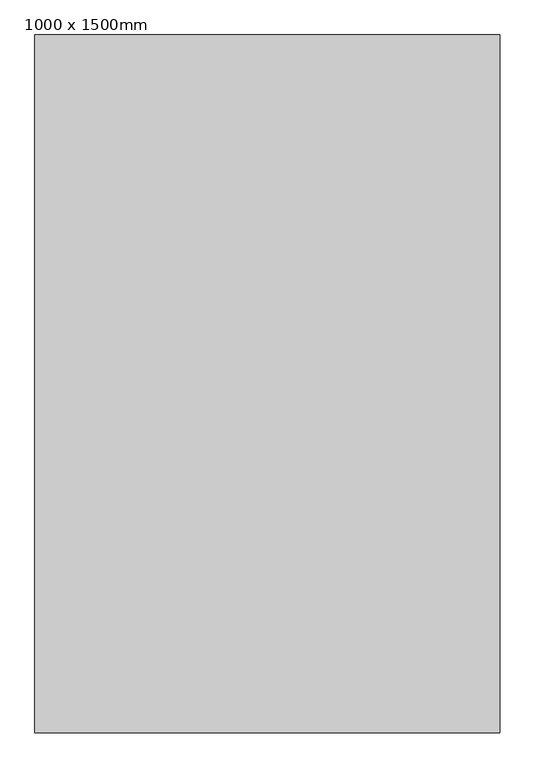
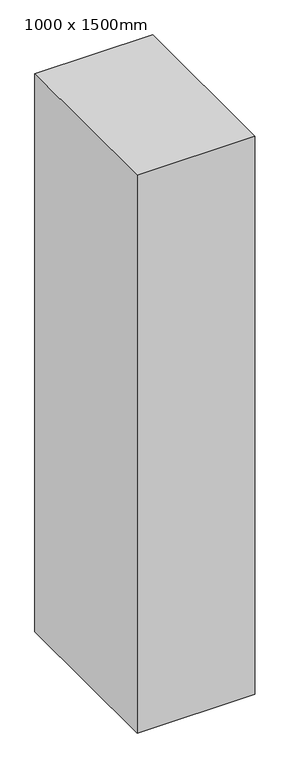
"""IFC4 building model written with IfcOpenShell, lengths in millimetres: column geometry, 混凝土 - 矩形 - 柱 : 1000 x 1500mm."""

import ifcopenshell
import ifcopenshell.guid

model = None  # the IFC model being written
_history = None  # IfcOwnerHistory: only IFC2X3 demands one
_inside = {}  # id of a spatial element -> (the spatial element, [elements in it])
_under = {}  # id of a project, library or spatial element -> (it, [spatial elements below it])
_declared = {}  # id of a project -> (the project, [libraries it declares])
_typed = {}  # id of a type object -> (the type object, [elements of that type])
_made_of = {}  # id of a material, layer set ... -> (it, [elements and type objects made of it])


def new_model(schema):
    """Start an empty IFC model of exactly this schema.

    Asked for "IFC4X3", IfcOpenShell would pick the latest addendum, in which some entities
    have other attributes; the version numbers below select the first issue.
    IFC2X3 requires an IfcOwnerHistory on every rooted entity: one is made here for all.
    """
    global model, _history
    if schema == "IFC4X3":
        model = ifcopenshell.file(schema_version=(4, 3, 0, 0))
    else:
        model = ifcopenshell.file(schema=schema)
    _inside.clear()
    _under.clear()
    _declared.clear()
    _typed.clear()
    _made_of.clear()
    _history = None
    if model.schema == "IFC2X3":
        org = make("IfcOrganization", Name="unknown")
        user = make(
            "IfcPersonAndOrganization",
            ThePerson=make("IfcPerson", FamilyName="unknown"),
            TheOrganization=org,
        )
        app = make(
            "IfcApplication",
            ApplicationDeveloper=org,
            Version="unknown",
            ApplicationFullName="unknown",
            ApplicationIdentifier="unknown",
        )
        _history = make(
            "IfcOwnerHistory",
            OwningUser=user,
            OwningApplication=app,
            ChangeAction="ADDED",
            CreationDate=0,
        )
    return model


def make(cls, **values):
    """One entity of the class cls with the attributes given. An attribute that is None is left unset."""
    return model.create_entity(
        cls, **{name: value for name, value in values.items() if value is not None}
    )


def rooted(cls, **values):
    """An entity with a GlobalId (a new one), such as an element, a storey or a relation."""
    return make(cls, GlobalId=ifcopenshell.guid.new(), OwnerHistory=_history, **values)


def si_unit(unit_type, name, prefix=None):
    """IfcSIUnit, for example si_unit("LENGTHUNIT", "METRE", prefix="MILLI")."""
    return make("IfcSIUnit", UnitType=unit_type, Prefix=prefix, Name=name)


def assignment(units):
    """IfcUnitAssignment: the units of a project."""
    return None if units is None else make("IfcUnitAssignment", Units=units)


def point(xyz):
    """IfcCartesianPoint."""
    return None if xyz is None else make("IfcCartesianPoint", Coordinates=xyz)


def direction(xyz):
    """IfcDirection."""
    return None if xyz is None else make("IfcDirection", DirectionRatios=xyz)


def frame(location, z_axis=None, x_axis=None):
    """IfcAxis2Placement3D, a coordinate frame: its origin and axes. An axis left out is left unset."""
    return make(
        "IfcAxis2Placement3D",
        Location=point(location),
        Axis=direction(z_axis),
        RefDirection=direction(x_axis),
    )


def origin():
    """The frame at (0, 0, 0) with its axes left unset."""
    return frame((0.0, 0.0, 0.0))


def place(relative_to, where):
    """IfcLocalPlacement: puts the frame where relative to a parent placement (None: the world)."""
    return make(
        "IfcLocalPlacement", PlacementRelTo=relative_to, RelativePlacement=where
    )


def context(
    kind, dimensions, precision=None, world=None, true_north=None, identifier=None
):
    """IfcGeometricRepresentationContext, for example the 3D "Model" context."""
    return make(
        "IfcGeometricRepresentationContext",
        ContextIdentifier=identifier,
        ContextType=kind,
        CoordinateSpaceDimension=dimensions,
        Precision=precision,
        WorldCoordinateSystem=world,
        TrueNorth=true_north,
    )


def project(units=None, contexts=None):
    """IfcProject with its units and contexts."""
    return rooted(
        "IfcProject",
        Name="project",
        RepresentationContexts=contexts,
        UnitsInContext=assignment(units),
    )


def spatial(cls, under=None, at=None, **own):
    """A site, building, storey or space (cls), placed at a placement, below another one or the project."""
    s = rooted(cls, ObjectPlacement=at, **own)
    if under is not None:
        _under.setdefault(under.id(), (under, []))[1].append(s)
    return s


def polyline(points):
    """IfcPolyline through the points."""
    return make("IfcPolyline", Points=[point(p) for p in points])


def outline(outer, holes=None, kind="AREA"):
    """IfcArbitraryClosedProfileDef: a profile drawn as a closed curve; with holes, ...WithVoids."""
    if holes is None:
        return make("IfcArbitraryClosedProfileDef", ProfileType=kind, OuterCurve=outer)
    return make(
        "IfcArbitraryProfileDefWithVoids",
        ProfileType=kind,
        OuterCurve=outer,
        InnerCurves=holes,
    )


def extrude(swept, where, along, depth):
    """IfcExtrudedAreaSolid: the profile swept, set in the frame where, extruded along a direction by depth."""
    return make(
        "IfcExtrudedAreaSolid",
        SweptArea=swept,
        Position=where,
        ExtrudedDirection=direction(along),
        Depth=depth,
    )


def shape(context_of_items, identifier, shape_type, items):
    """IfcShapeRepresentation: the items that make up one representation, for example the "Body"."""
    return make(
        "IfcShapeRepresentation",
        ContextOfItems=context_of_items,
        RepresentationIdentifier=identifier,
        RepresentationType=shape_type,
        Items=items,
    )


def source(mapping_origin, context_of_items, identifier, shape_type, items):
    """IfcRepresentationMap: a shape defined once, which mapped items show again and again."""
    return make(
        "IfcRepresentationMap",
        MappingOrigin=mapping_origin,
        MappedRepresentation=shape(context_of_items, identifier, shape_type, items),
    )


def transform(
    local_origin,
    x_axis=None,
    y_axis=None,
    z_axis=None,
    scale=None,
    scale2=None,
    scale3=None,
    uniform=True,
):
    """IfcCartesianTransformationOperator3D, or its non-uniform kind. x_axis, y_axis, z_axis: its Axis1, 2, 3."""
    if uniform:
        return make(
            "IfcCartesianTransformationOperator3D",
            Axis1=direction(x_axis),
            Axis2=direction(y_axis),
            LocalOrigin=point(local_origin),
            Scale=scale,
            Axis3=direction(z_axis),
        )
    return make(
        "IfcCartesianTransformationOperator3DnonUniform",
        Axis1=direction(x_axis),
        Axis2=direction(y_axis),
        LocalOrigin=point(local_origin),
        Scale=scale,
        Axis3=direction(z_axis),
        Scale2=scale2,
        Scale3=scale3,
    )


def mapped(mapping_source, mapping_target):
    """IfcMappedItem: shows the shape of a source again, moved by a transform."""
    return make(
        "IfcMappedItem", MappingSource=mapping_source, MappingTarget=mapping_target
    )


def made_of(thing, what):
    """Note that an element or type object is made of a material, layer set ...; save() writes the relation."""
    if what is not None:
        _made_of.setdefault(what.id(), (what, []))[1].append(thing)
    return thing


def element(
    cls,
    number,
    at=None,
    inside=None,
    cuts=None,
    type_object=None,
    material=None,
    context=None,
    identifier="Body",
    shape_type=None,
    held_by="IfcProductDefinitionShape",
    body=None,
    shapes=None,
    **own,
):
    """One element of the class cls, such as IfcWall. Its Tag is "e" and its number.

    at: its placement. inside: the storey or other place that contains it. cuts: it is an
    opening in that element (IfcRelVoidsElement). A single representation is given by context,
    identifier, shape_type and body (its items); several are given by shapes. held_by: the class
    of the entity that holds the representations. save() writes the other relations.
    """
    e = rooted(cls, Tag="e%d" % number, ObjectPlacement=at, **own)
    if body is not None:
        shapes = [shape(context, identifier, shape_type, body)]
    if shapes is not None:
        e.Representation = make(held_by, Representations=shapes)
    if inside is not None:
        _inside.setdefault(inside.id(), (inside, []))[1].append(e)
    if cuts is not None:
        rooted(
            "IfcRelVoidsElement", RelatingBuildingElement=cuts, RelatedOpeningElement=e
        )
    if type_object is not None:
        _typed.setdefault(type_object.id(), (type_object, []))[1].append(e)
    return made_of(e, material)


def aggregate(whole, parts):
    """IfcRelAggregates: a whole, such as a stair, and the parts it consists of."""
    return rooted("IfcRelAggregates", RelatingObject=whole, RelatedObjects=parts)


def save(model, path):
    """Write the relations noted so far, then the file.

    IfcRelAggregates (storeys below a building ...), IfcRelContainedInSpatialStructure (elements
    in a storey), IfcRelDefinesByType, IfcRelAssociatesMaterial and IfcRelDeclares: one each for
    every whole, place, type object, material and project.
    """
    for whole, parts in _under.values():
        aggregate(whole, parts)
    for where, things in _inside.values():
        rooted(
            "IfcRelContainedInSpatialStructure",
            RelatedElements=things,
            RelatingStructure=where,
        )
    for kind, things in _typed.values():
        rooted("IfcRelDefinesByType", RelatedObjects=things, RelatingType=kind)
    for what, things in _made_of.values():
        rooted("IfcRelAssociatesMaterial", RelatedObjects=things, RelatingMaterial=what)
    for by, libraries in _declared.values():
        rooted("IfcRelDeclares", RelatingContext=by, RelatedDefinitions=libraries)
    model.write(path)


def column_1000_x_1500mm_8442d7db(model_context):
    return source(origin(), model_context, "Body", "SweptSolid", [
        extrude(outline(polyline([(500.0, 750.0), (500.0, -750.0), (-500.0, -750.0), (-500.0, 750.0), (500.0, 750.0)])), frame((0.0, 0.0, -2000.0), z_axis=(0.0, 0.0, 1.0), x_axis=(1.0, 0.0, 0.0)), (0.0, 0.0, 1.0), 5000.0),
    ])


if __name__ == "__main__":
    model = new_model("IFC4")
    model_context = context("Model", 3, world=origin())
    ifc_project = project(units=[si_unit("LENGTHUNIT", "METRE", prefix="MILLI")], contexts=[model_context])
    site = spatial("IfcSite", under=ifc_project)
    building = spatial("IfcBuilding", under=site)
    placement = place(None, origin())
    column_1000_x_1500mm_shape = column_1000_x_1500mm_8442d7db(model_context)
    element("IfcColumn", 1, ObjectType="混凝土 - 矩形 - 柱 : 1000 x 1500mm", at=placement, inside=building, context=model_context, shape_type="MappedRepresentation", body=[
        mapped(column_1000_x_1500mm_shape, transform((0.0, 0.0, 0.0), x_axis=(1.0, 0.0, 0.0), y_axis=(0.0, 1.0, 0.0), z_axis=(0.0, 0.0, 1.0))),
    ])
    save(model, "model.ifc")
